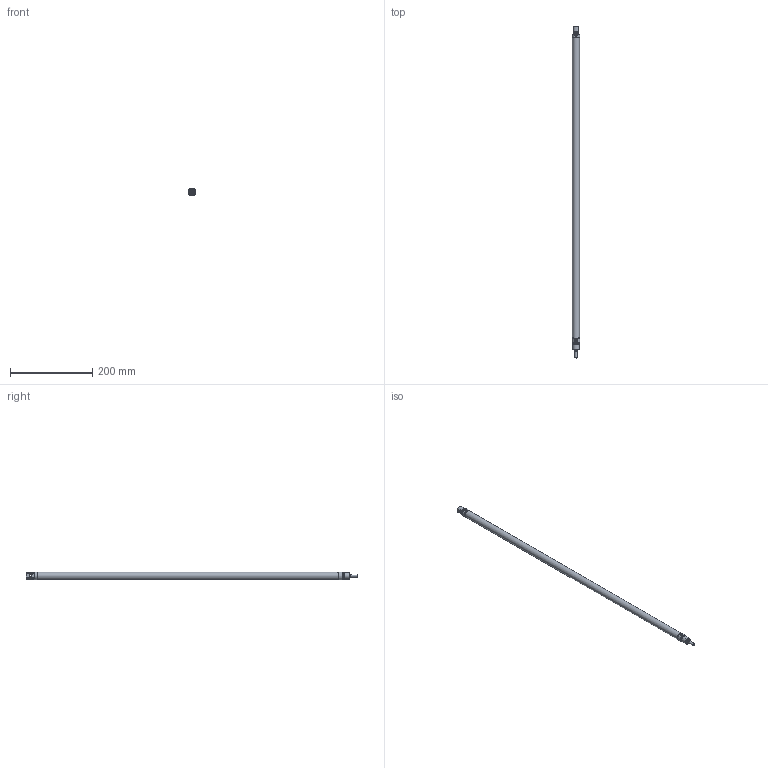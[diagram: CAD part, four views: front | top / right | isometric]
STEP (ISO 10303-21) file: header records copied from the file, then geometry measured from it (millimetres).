
FILE_DESCRIPTION((''),'2;1');
FILE_NAME('T:\Archivio Inventor\- 00 NUOVI STP PER SITO CON STELO CHE SI MUOVE\SERIE O\ODM\ODM016.---.GS.M\STEP\ODM016.700.GS.M.stp','2017-06-12T15:34:55',('carlo.corazza'),(''),'Autodesk Inventor 2013','Autodesk Inventor 2013','');
FILE_SCHEMA(('AUTOMOTIVE_DESIGN { 1 0 10303 214 1 1 1 1 }'));
Length unit declared in the file: millimetre
Products named in the file (5): ODM016..GS.M; CORPO-700; STELO-700; TA; TP
Assembly tree (4 placements, depth 2):
  ODM016..GS.M
    CORPO-700
    STELO-700
    TA
    TP
Bounding box: 18.95 x 809 x 18.14 mm (x, y, z)
Volume: 56932.4 mm3; surface area: 96070.6 mm2
Topology: 4 solids, 4 shells, 98 faces, 204 edges, 129 vertices
Faces by surface type: plane 40, cylinder 28, cone 23, torus 7
Full cylindrical faces by diameter (mm): 4 x1, 4.134 x2, 5.9 x1, 6 x2, 6.5 x1, 7.1 x1, 9 x1, 9.1 x1, 11.1 x1, 11.2 x1, 13.7 x1, 16 x3, 17.2 x2, 17.27 x1
Entity records: 2545 total; most frequent: DIRECTION 444, CARTESIAN_POINT 422, ORIENTED_EDGE 296, AXIS2_PLACEMENT_3D 198, EDGE_LOOP 162, EDGE_CURVE 148, VERTEX_POINT 118, FACE_OUTER_BOUND 98
